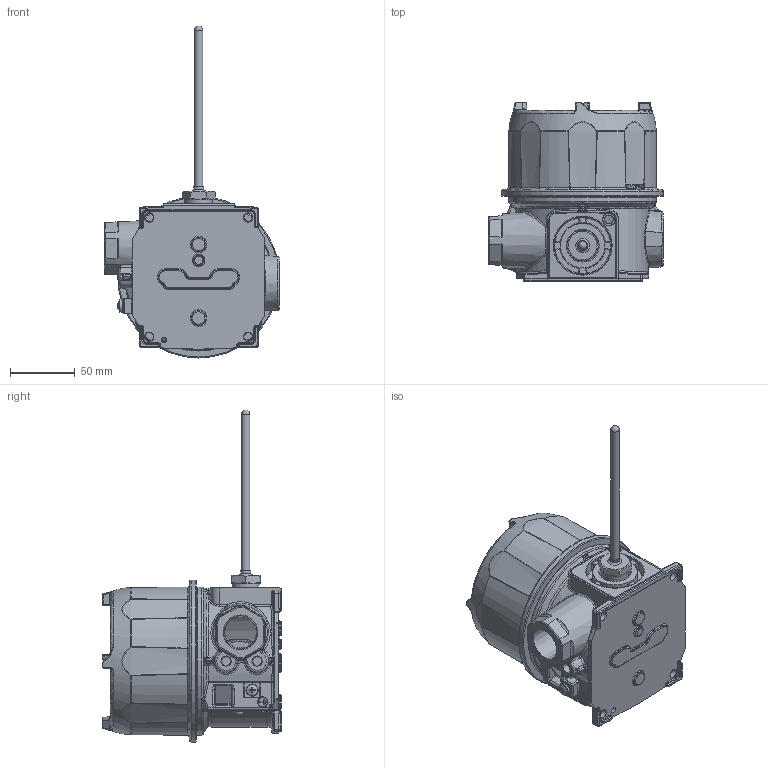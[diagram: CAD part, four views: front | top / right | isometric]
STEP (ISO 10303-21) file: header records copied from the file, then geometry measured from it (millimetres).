
FILE_DESCRIPTION (( 'STEP AP214' ), '1' );
FILE_NAME ('1X-TL2_ALLMODELS_V4.STEP', '2025-03-13T15:35:57', ( '' ), ( '' ), 'SwSTEP 2.0', 'SolidWorks 2023', '' );
FILE_SCHEMA (( 'AUTOMOTIVE_DESIGN' ));
Length unit declared in the file: inch
Products named in the file (1): 1X-TL2_ALLMODELS_V4
Bounding box: 135 x 138.46 x 256.02 mm (x, y, z)
Surface area: 103397.8 mm2 (no closed solid volume)
Topology: 0 solids, 21 shells, 1513 faces, 4770 edges, 3054 vertices
Faces by surface type: plane 597, bspline 417, cylinder 189, torus 169, cone 106, sphere 35
Full cylindrical faces by diameter (mm): 3.3 x1, 6.426 x1, 6.8 x1, 7.722 x1, 9.347 x1, 9.5 x1, 9.844 x1, 23.812 x1, 70.104 x1, 114.046 x1, 124.714 x1
Entity records: 75501 total; most frequent: CARTESIAN_POINT 38118, ORIENTED_EDGE 7788, DIRECTION 6635, EDGE_CURVE 4632, VERTEX_POINT 3024, VECTOR 2433, LINE 2433, AXIS2_PLACEMENT_3D 2101
